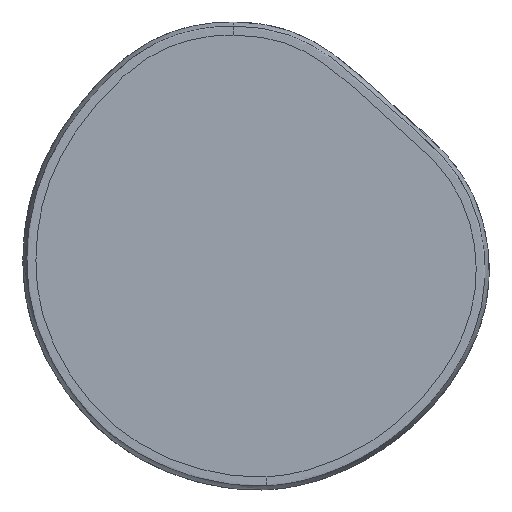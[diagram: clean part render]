
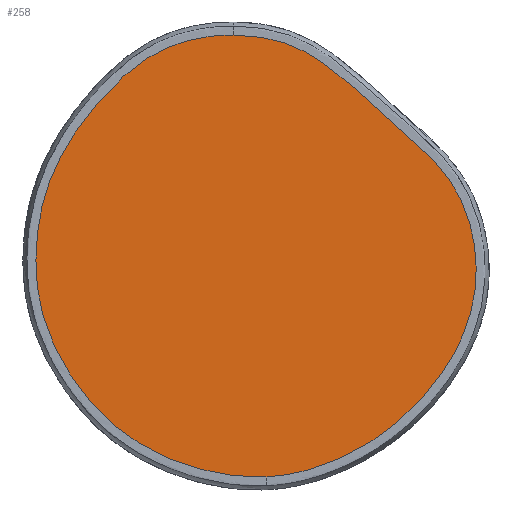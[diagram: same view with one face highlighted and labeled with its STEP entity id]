
A CAD part, top view. The second image highlights one B-rep face of the part: STEP entity #258.
In plain terms, the highlighted planar face has unit normal (0, 0, 1).
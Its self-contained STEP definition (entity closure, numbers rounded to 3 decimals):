
#258=ADVANCED_FACE('',(#522),#3863,.T.);
#522=FACE_OUTER_BOUND('',#790,.T.);
#790=EDGE_LOOP('',(#1156,#1157));
#1156=ORIENTED_EDGE('',*,*,#2385,.F.);
#1157=ORIENTED_EDGE('',*,*,#2317,.F.);
#2317=EDGE_CURVE('',#3368,#3412,#2907,.T.);
#2385=EDGE_CURVE('',#3412,#3368,#2975,.T.);
#2907=(
BOUNDED_CURVE()
B_SPLINE_CURVE(3,(#6285,#6286,#6287,#6288,#6289,#6290,#6291,#6292,#6293,
#6294,#6295,#6296,#6297,#6298,#6299,#6300,#6301,#6302,#6303,#6304,#6305,
#6306,#6307,#6308,#6309,#6310,#6311,#6312,#6313,#6314,#6315,#6316,#6317,
#6318,#6319,#6320,#6321,#6322,#6323,#6324,#6325,#6326,#6327,#6328,#6329,
#6330,#6331,#6332,#6333,#6334,#6335),.UNSPECIFIED.,.F.,.F.)
B_SPLINE_CURVE_WITH_KNOTS((4,1,1,1,1,1,1,1,1,1,1,1,1,1,1,1,1,1,1,1,1,1,
1,1,1,1,1,1,1,1,1,1,1,1,1,1,1,1,1,1,1,1,1,1,1,1,1,1,4),(0.,17.408,
61.76,106.282,128.445,150.134,171.415,
192.832,214.208,235.601,278.587,300.395,
322.45,344.632,403.608,414.879,430.624,
484.591,529.155,573.194,616.986,638.976,
661.021,683.21,706.183,752.477,798.81,
845.43,893.145,940.614,964.154,976.189,
1000.267,1047.775,1095.198,1142.41,1189.151,
1235.057,1279.695,1322.862,1364.743,1405.535,
1445.407,1484.503,1522.934,1560.86,1598.172,
1635.746,1674.528),.UNSPECIFIED.)
CURVE()
GEOMETRIC_REPRESENTATION_ITEM()
RATIONAL_B_SPLINE_CURVE((1.,1.,1.,1.,1.,1.,
1.,1.,1.,1.,1.,1.,1.,1.,1.,1.,1.,1.,1.,1.,
1.,1.,1.,1.,1.,1.,1.,1.,1.,1.,1.,1.,1.,1.,1.,1.,1.,1.,1.,
1.,1.,1.,1.,1.,1.,1.,1.,1.,1.,1.,1.))
REPRESENTATION_ITEM('')
);
#2975=(
BOUNDED_CURVE()
B_SPLINE_CURVE(3,(#6748,#6749,#6750,#6751,#6752,#6753,#6754,#6755,#6756,
#6757,#6758,#6759,#6760,#6761,#6762,#6763,#6764,#6765,#6766,#6767,#6768,
#6769,#6770,#6771,#6772,#6773,#6774,#6775,#6776,#6777,#6778,#6779,#6780,
#6781,#6782,#6783,#6784,#6785,#6786,#6787,#6788,#6789,#6790,#6791,#6792,
#6793,#6794,#6795,#6796,#6797),.UNSPECIFIED.,.F.,.F.)
B_SPLINE_CURVE_WITH_KNOTS((4,1,1,1,1,1,1,1,1,1,1,1,1,1,1,1,1,1,1,1,1,1,
1,1,1,1,1,1,1,1,1,1,1,1,1,1,1,1,1,1,1,1,1,1,1,1,1,4),(1674.528,
1714.601,1756.534,1802.667,1848.588,1894.244,
1918.191,1942.525,1991.301,2039.68,2063.526,
2087.63,2135.941,2184.188,2229.65,2274.479,
2319.21,2359.504,2396.916,2434.353,2470.244,
2504.019,2537.79,2554.813,2586.395,2619.468,
2652.605,2685.955,2719.693,2754.018,2771.256,
2788.699,2824.138,2860.635,2897.588,2934.801,
2972.064,2999.105,3035.991,3072.824,3110.142,
3148.571,3186.535,3205.527,3225.065,3265.762,
3306.792,3347.284),.UNSPECIFIED.)
CURVE()
GEOMETRIC_REPRESENTATION_ITEM()
RATIONAL_B_SPLINE_CURVE((1.,1.,1.,1.,1.,1.,1.,1.,1.,1.,1.,
1.,1.,1.,1.,1.,1.,1.,1.,1.,1.,1.,1.,1.,1.,1.,1.,1.,1.,1.,1.,1.,1.,1.,1.,
1.,1.,1.,1.,1.,1.,1.,1.,1.,1.,1.,1.,1.,1.,1.))
REPRESENTATION_ITEM('')
);
#3368=VERTEX_POINT('',#6091);
#3412=VERTEX_POINT('',#6135);
#3863=PLANE('',#4103);
#4103=AXIS2_PLACEMENT_3D('',#5278,#4308,$);
#4308=DIRECTION('',(0.,0.,1.));
#5278=CARTESIAN_POINT('',(-513.477,515.713,380.));
#6091=CARTESIAN_POINT('',(-46.753,505.442,380.));
#6135=CARTESIAN_POINT('',(27.991,-514.754,380.));
#6285=CARTESIAN_POINT('',(-46.753,505.442,380.));
#6286=CARTESIAN_POINT('',(-41.33,505.416,380.));
#6287=CARTESIAN_POINT('',(-22.107,504.954,380.));
#6288=CARTESIAN_POINT('',(10.81,501.911,380.));
#6289=CARTESIAN_POINT('',(44.414,495.169,380.));
#6290=CARTESIAN_POINT('',(70.293,487.505,380.));
#6291=CARTESIAN_POINT('',(88.776,480.707,380.));
#6292=CARTESIAN_POINT('',(106.643,472.752,380.));
#6293=CARTESIAN_POINT('',(124.062,463.699,380.));
#6294=CARTESIAN_POINT('',(141.144,453.596,380.));
#6295=CARTESIAN_POINT('',(163.523,438.863,380.));
#6296=CARTESIAN_POINT('',(185.415,422.428,380.));
#6297=CARTESIAN_POINT('',(207.04,404.722,380.));
#6298=CARTESIAN_POINT('',(223.372,390.759,380.));
#6299=CARTESIAN_POINT('',(248.799,368.378,380.));
#6300=CARTESIAN_POINT('',(271.591,347.681,380.));
#6301=CARTESIAN_POINT('',(293.36,328.418,380.));
#6302=CARTESIAN_POINT('',(313.907,310.476,380.));
#6303=CARTESIAN_POINT('',(342.721,285.73,380.));
#6304=CARTESIAN_POINT('',(377.365,254.67,380.));
#6305=CARTESIAN_POINT('',(407.655,224.975,380.));
#6306=CARTESIAN_POINT('',(430.567,199.109,380.));
#6307=CARTESIAN_POINT('',(447.115,177.479,380.));
#6308=CARTESIAN_POINT('',(458.588,160.657,380.));
#6309=CARTESIAN_POINT('',(469.097,143.07,380.));
#6310=CARTESIAN_POINT('',(481.767,118.276,380.));
#6311=CARTESIAN_POINT('',(494.83,85.207,380.));
#6312=CARTESIAN_POINT('',(505.872,43.553,380.));
#6313=CARTESIAN_POINT('',(512.346,0.369,380.));
#6314=CARTESIAN_POINT('',(514.085,-43.659,380.));
#6315=CARTESIAN_POINT('',(511.445,-80.368,380.));
#6316=CARTESIAN_POINT('',(507.407,-105.683,380.));
#6317=CARTESIAN_POINT('',(503.706,-123.671,380.));
#6318=CARTESIAN_POINT('',(497.35,-148.669,380.));
#6319=CARTESIAN_POINT('',(485.168,-183.59,380.));
#6320=CARTESIAN_POINT('',(466.253,-223.872,380.));
#6321=CARTESIAN_POINT('',(443.676,-262.259,380.));
#6322=CARTESIAN_POINT('',(418.131,-298.385,380.));
#6323=CARTESIAN_POINT('',(390.311,-331.91,380.));
#6324=CARTESIAN_POINT('',(360.899,-362.532,380.));
#6325=CARTESIAN_POINT('',(330.391,-390.068,380.));
#6326=CARTESIAN_POINT('',(298.989,-414.57,380.));
#6327=CARTESIAN_POINT('',(266.817,-436.198,380.));
#6328=CARTESIAN_POINT('',(233.987,-455.108,380.));
#6329=CARTESIAN_POINT('',(200.618,-471.451,380.));
#6330=CARTESIAN_POINT('',(166.728,-485.426,380.));
#6331=CARTESIAN_POINT('',(132.768,-496.973,380.));
#6332=CARTESIAN_POINT('',(98.601,-505.866,380.));
#6333=CARTESIAN_POINT('',(63.718,-512.039,380.));
#6334=CARTESIAN_POINT('',(40.05,-514.182,380.));
#6335=CARTESIAN_POINT('',(27.991,-514.754,380.));
#6748=CARTESIAN_POINT('',(27.991,-514.754,380.));
#6749=CARTESIAN_POINT('',(15.531,-515.345,380.));
#6750=CARTESIAN_POINT('',(-10.048,-515.428,380.));
#6751=CARTESIAN_POINT('',(-50.086,-512.112,380.));
#6752=CARTESIAN_POINT('',(-91.834,-505.134,380.));
#6753=CARTESIAN_POINT('',(-134.181,-494.58,380.));
#6754=CARTESIAN_POINT('',(-168.96,-483.071,380.));
#6755=CARTESIAN_POINT('',(-196.589,-472.107,380.));
#6756=CARTESIAN_POINT('',(-224.61,-459.624,380.));
#6757=CARTESIAN_POINT('',(-258.529,-441.811,380.));
#6758=CARTESIAN_POINT('',(-290.335,-421.123,380.));
#6759=CARTESIAN_POINT('',(-314.148,-402.879,380.));
#6760=CARTESIAN_POINT('',(-337.096,-383.363,380.));
#6761=CARTESIAN_POINT('',(-364.162,-356.747,380.));
#6762=CARTESIAN_POINT('',(-393.275,-322.58,380.));
#6763=CARTESIAN_POINT('',(-418.987,-287.001,380.));
#6764=CARTESIAN_POINT('',(-441.414,-250.536,380.));
#6765=CARTESIAN_POINT('',(-460.26,-214.024,380.));
#6766=CARTESIAN_POINT('',(-475.246,-178.561,380.));
#6767=CARTESIAN_POINT('',(-486.607,-144.418,380.));
#6768=CARTESIAN_POINT('',(-494.823,-110.91,380.));
#6769=CARTESIAN_POINT('',(-500.129,-77.953,380.));
#6770=CARTESIAN_POINT('',(-502.888,-45.716,380.));
#6771=CARTESIAN_POINT('',(-503.416,-19.054,380.));
#6772=CARTESIAN_POINT('',(-502.825,7.131,380.));
#6773=CARTESIAN_POINT('',(-501.31,33.085,380.));
#6774=CARTESIAN_POINT('',(-497.9,63.849,380.));
#6775=CARTESIAN_POINT('',(-492.64,94.803,380.));
#6776=CARTESIAN_POINT('',(-485.445,125.468,380.));
#6777=CARTESIAN_POINT('',(-476.17,155.891,380.));
#6778=CARTESIAN_POINT('',(-466.652,180.887,380.));
#6779=CARTESIAN_POINT('',(-457.924,200.674,380.));
#6780=CARTESIAN_POINT('',(-448.35,220.55,380.));
#6781=CARTESIAN_POINT('',(-434.876,245.421,380.));
#6782=CARTESIAN_POINT('',(-416.634,274.886,380.));
#6783=CARTESIAN_POINT('',(-396.449,303.893,380.));
#6784=CARTESIAN_POINT('',(-374.615,332.141,380.));
#6785=CARTESIAN_POINT('',(-353.499,356.92,380.));
#6786=CARTESIAN_POINT('',(-331.442,380.827,380.));
#6787=CARTESIAN_POINT('',(-308.745,403.414,380.));
#6788=CARTESIAN_POINT('',(-282.498,426.313,380.));
#6789=CARTESIAN_POINT('',(-254.436,447.064,380.));
#6790=CARTESIAN_POINT('',(-224.511,465.05,380.));
#6791=CARTESIAN_POINT('',(-198.09,477.371,380.));
#6792=CARTESIAN_POINT('',(-176.19,485.52,380.));
#6793=CARTESIAN_POINT('',(-153.062,492.744,380.));
#6794=CARTESIAN_POINT('',(-122.533,499.663,380.));
#6795=CARTESIAN_POINT('',(-84.795,504.51,380.));
#6796=CARTESIAN_POINT('',(-59.365,505.504,380.));
#6797=CARTESIAN_POINT('',(-46.753,505.442,380.));
